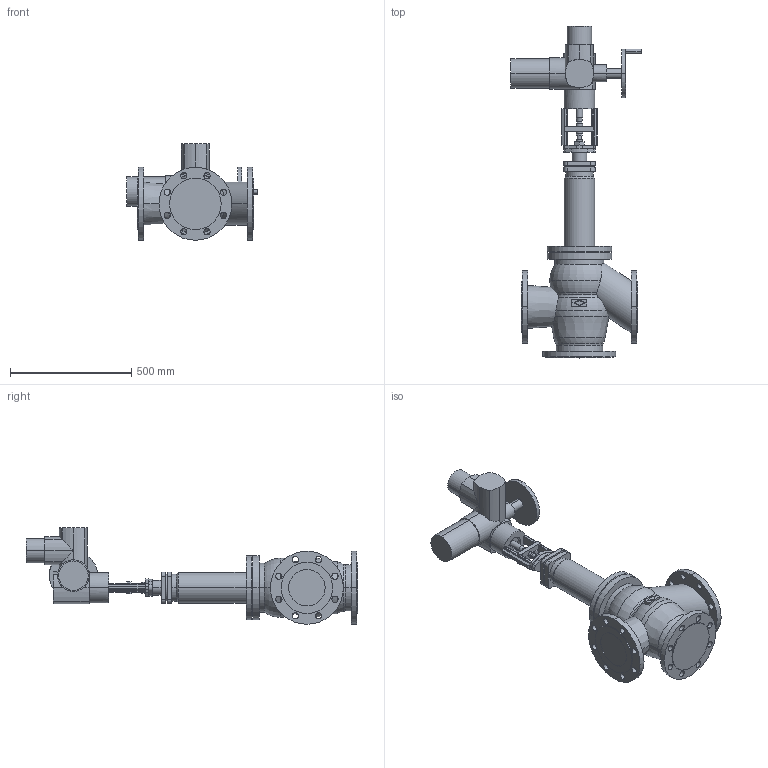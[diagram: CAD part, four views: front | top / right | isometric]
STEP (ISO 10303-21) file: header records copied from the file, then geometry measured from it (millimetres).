
FILE_DESCRIPTION(('OneSpaceDesigner STEP Export'),'2;1');
FILE_NAME('c000003214.stp','2007-01-25T11:55:20',(''),(''),'OneSpace Designer STEP processor for AP214 (Solid Model)','OneSpace Designer 14.00B 27-May-2006 (C) CoCreate Software GmbH','');
FILE_SCHEMA(('AUTOMOTIVE_DESIGN { 1 0 10303 214 1 1 1 1 }'));
Length unit declared in the file: millimetre
Products named in the file (2): 1; 2
Bounding box: 536 x 1366.2 x 397 mm (x, y, z)
Volume: 43801208.6 mm3; surface area: 1671798.8 mm2
Topology: 2 solids, 2 shells, 365 faces, 928 edges, 591 vertices
Faces by surface type: cylinder 180, plane 159, torus 16, cone 10
Entity records: 10542 total; most frequent: CARTESIAN_POINT 2285, ORIENTED_EDGE 1856, DIRECTION 1534, EDGE_CURVE 928, VERTEX_POINT 591, AXIS2_PLACEMENT_3D 536, VECTOR 462, LINE 462
